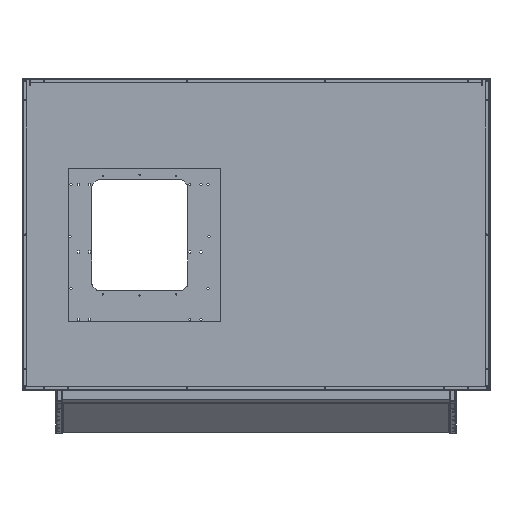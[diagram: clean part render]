
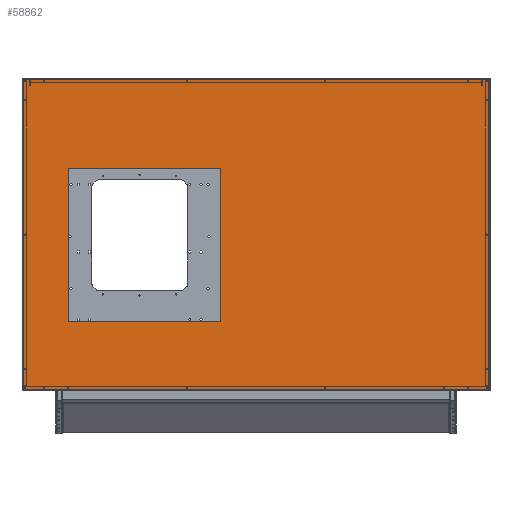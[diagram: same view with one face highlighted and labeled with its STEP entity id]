
A CAD part, top view. The second image highlights one B-rep face of the part: STEP entity #58862.
In plain terms, the highlighted planar face has unit normal (0, 0, 1).
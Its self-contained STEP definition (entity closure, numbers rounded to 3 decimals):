
#20866=ORIENTED_EDGE('',*,*,#29668,.F.);
#20867=ORIENTED_EDGE('',*,*,#29669,.F.);
#20868=ORIENTED_EDGE('',*,*,#29670,.F.);
#20869=ORIENTED_EDGE('',*,*,#29671,.F.);
#20870=ORIENTED_EDGE('',*,*,#29672,.T.);
#20871=ORIENTED_EDGE('',*,*,#29673,.F.);
#20872=ORIENTED_EDGE('',*,*,#29674,.F.);
#20873=ORIENTED_EDGE('',*,*,#29675,.F.);
#29668=EDGE_CURVE('',#35267,#35268,#40524,.T.);
#29669=EDGE_CURVE('',#35269,#35267,#40525,.T.);
#29670=EDGE_CURVE('',#35270,#35269,#40526,.T.);
#29671=EDGE_CURVE('',#35268,#35270,#40527,.T.);
#29672=EDGE_CURVE('',#35271,#35272,#40528,.T.);
#29673=EDGE_CURVE('',#35273,#35272,#40529,.F.);
#29674=EDGE_CURVE('',#35274,#35273,#40530,.T.);
#29675=EDGE_CURVE('',#35271,#35274,#40531,.T.);
#35267=VERTEX_POINT('',#105357);
#35268=VERTEX_POINT('',#105358);
#35269=VERTEX_POINT('',#105360);
#35270=VERTEX_POINT('',#105362);
#35271=VERTEX_POINT('',#105365);
#35272=VERTEX_POINT('',#105366);
#35273=VERTEX_POINT('',#105368);
#35274=VERTEX_POINT('',#105370);
#40524=LINE('',#105356,#45770);
#40525=LINE('',#105359,#45771);
#40526=LINE('',#105361,#45772);
#40527=LINE('',#105363,#45773);
#40528=LINE('',#105364,#45774);
#40529=LINE('',#105367,#45775);
#40530=LINE('',#105369,#45776);
#40531=LINE('',#105371,#45777);
#45770=VECTOR('',#81515,1000.);
#45771=VECTOR('',#81516,1000.);
#45772=VECTOR('',#81517,1000.);
#45773=VECTOR('',#81518,1000.);
#45774=VECTOR('',#81519,1000.);
#45775=VECTOR('',#81520,1000.);
#45776=VECTOR('',#81521,1000.);
#45777=VECTOR('',#81522,1000.);
#49868=EDGE_LOOP('',(#20866,#20867,#20868,#20869));
#49869=EDGE_LOOP('',(#20870,#20871,#20872,#20873));
#53934=FACE_BOUND('',#49868,.T.);
#53935=FACE_BOUND('',#49869,.T.);
#55716=PLANE('',#65554);
#58862=ADVANCED_FACE('',(#53934,#53935),#55716,.F.);
#65554=AXIS2_PLACEMENT_3D('',#105355,#81513,#81514);
#81513=DIRECTION('',(0.,0.,-1.));
#81514=DIRECTION('',(-1.,0.,0.));
#81515=DIRECTION('',(1.,0.,0.));
#81516=DIRECTION('',(0.,-1.,0.));
#81517=DIRECTION('',(-1.,0.,0.));
#81518=DIRECTION('',(0.,1.,0.));
#81519=DIRECTION('',(1.,0.,0.));
#81520=DIRECTION('',(0.,1.,0.));
#81521=DIRECTION('',(1.,0.,0.));
#81522=DIRECTION('',(0.,1.,0.));
#105355=CARTESIAN_POINT('',(0.,0.,0.));
#105356=CARTESIAN_POINT('',(-614.81,-284.81,0.));
#105357=CARTESIAN_POINT('',(-614.81,-284.81,0.));
#105358=CARTESIAN_POINT('',(-114.81,-284.81,0.));
#105359=CARTESIAN_POINT('',(-614.81,215.19,0.));
#105360=CARTESIAN_POINT('',(-614.81,215.19,0.));
#105361=CARTESIAN_POINT('',(-114.81,215.19,0.));
#105362=CARTESIAN_POINT('',(-114.81,215.19,0.));
#105363=CARTESIAN_POINT('',(-114.81,-284.81,0.));
#105364=CARTESIAN_POINT('',(-765.398,-511.398,0.));
#105365=CARTESIAN_POINT('',(-765.398,-511.398,0.));
#105366=CARTESIAN_POINT('',(765.398,-511.398,0.));
#105367=CARTESIAN_POINT('',(765.398,511.398,0.));
#105368=CARTESIAN_POINT('',(765.398,511.398,0.));
#105369=CARTESIAN_POINT('',(-765.398,511.398,0.));
#105370=CARTESIAN_POINT('',(-765.398,511.398,0.));
#105371=CARTESIAN_POINT('',(-765.398,-511.398,0.));
